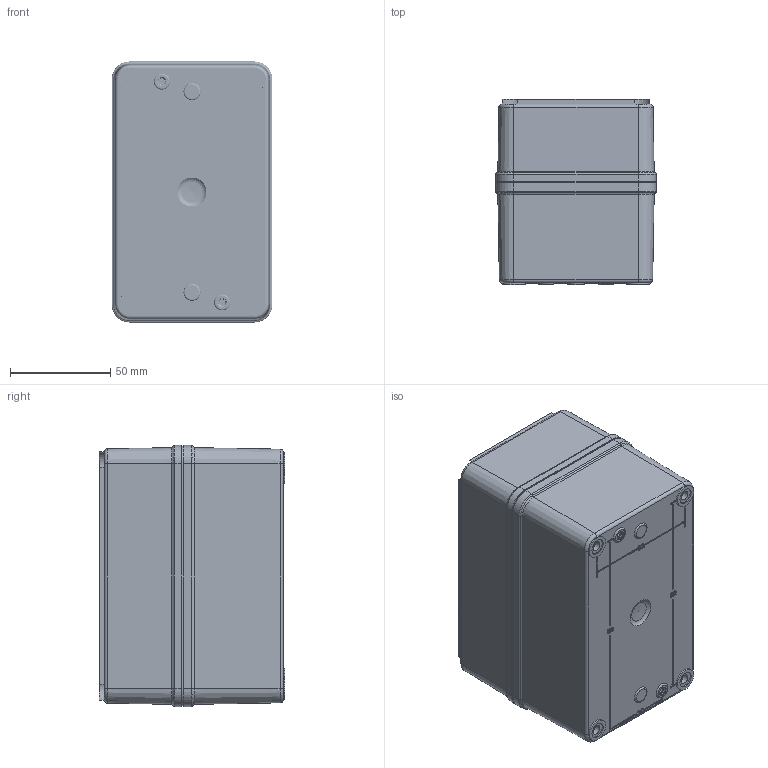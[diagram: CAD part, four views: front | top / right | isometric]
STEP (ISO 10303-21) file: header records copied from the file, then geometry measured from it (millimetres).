
FILE_DESCRIPTION(/* description */ (''),/* implementation_level */ '2;1');
FILE_NAME(/* name */ 'C:\Users\aalomero\Desktop\Saginaw\FECFPC2PB.stp',/* time_stamp */ '2019-12-27T11:53:14-05:00',/* author */ ('aalomero'),/* organization */ (''),/* preprocessor_version */ 'ST-DEVELOPER v16.13',/* originating_system */ 'Autodesk Inventor 2018',/* authorisation */ '');
FILE_SCHEMA (('AUTOMOTIVE_DESIGN { 1 0 10303 214 3 1 1 }'));
Products named in the file (6): ATCOPC2PB; WPCOPC532BOX; WPCOPC2PBU; WPCOPC2PBCVR; RMGAS_WPCOPC532CVR; custom screw
Assembly tree (8 placements, depth 3):
  ATCOPC2PB
    WPCOPC532BOX
    WPCOPC2PBU
      WPCOPC2PBCVR
      RMGAS_WPCOPC532CVR
    custom screw  x4
Bounding box: 80.14 x 92.38 x 130.14 mm (x, y, z)
Volume: 250919.9 mm3; surface area: 131208.7 mm2
Topology: 7 solids, 7 shells, 1886 faces, 4882 edges, 3056 vertices
Faces by surface type: plane 806, cylinder 520, bspline 352, torus 141, cone 58, sphere 9
Full cylindrical faces by diameter (mm): 2.54 x12, 3.2 x2, 3.226 x2, 4 x4, 4.762 x4, 7 x4, 7.938 x4, 8.509 x100, 10.998 x4, 11.43 x4, 11.684 x4, 11.811 x4
Entity records: 85011 total; most frequent: CARTESIAN_POINT 53379, ORIENTED_EDGE 6656, DIRECTION 6196, EDGE_CURVE 3328, VERTEX_POINT 2131, LINE 2108, VECTOR 2108, AXIS2_PLACEMENT_3D 2044
